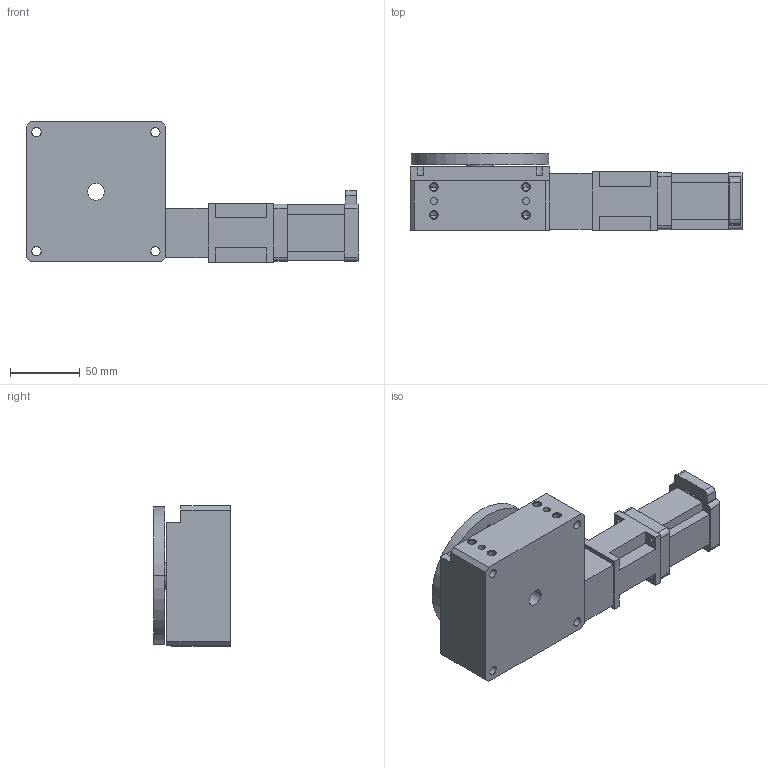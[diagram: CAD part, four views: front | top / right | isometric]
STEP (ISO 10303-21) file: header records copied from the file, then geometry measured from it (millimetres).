
FILE_DESCRIPTION((''),'2;1');
FILE_NAME('R100M6MP1E0_ASM','2009-07-02T',('FK20128'),(''),'PRO/ENGINEER BY PARAMETRIC TECHNOLOGY CORPORATION, 2006200','PRO/ENGINEER BY PARAMETRIC TECHNOLOGY CORPORATION, 2006200','');
FILE_SCHEMA(('CONFIG_CONTROL_DESIGN'));
Length unit declared in the file: millimetre
Products named in the file (4): R100M; R100M-M16; RXXXM-BE163; R100M6MP1E0_ASM
Assembly tree (3 placements, depth 2):
  R100M6MP1E0_ASM
    R100M
    R100M-M16
    RXXXM-BE163
Bounding box: 237.35 x 55.01 x 100.34 mm (x, y, z)
Volume: 678178.4 mm3; surface area: 99596 mm2
Topology: 3 solids, 21 shells, 290 faces, 726 edges, 482 vertices
Faces by surface type: cylinder 154, plane 114, cone 22
Entity records: 8924 total; most frequent: DIRECTION 1670, CARTESIAN_POINT 1497, ORIENTED_EDGE 1356, EDGE_CURVE 714, AXIS2_PLACEMENT_3D 655, VERTEX_POINT 482, EDGE_LOOP 386, VECTOR 360
